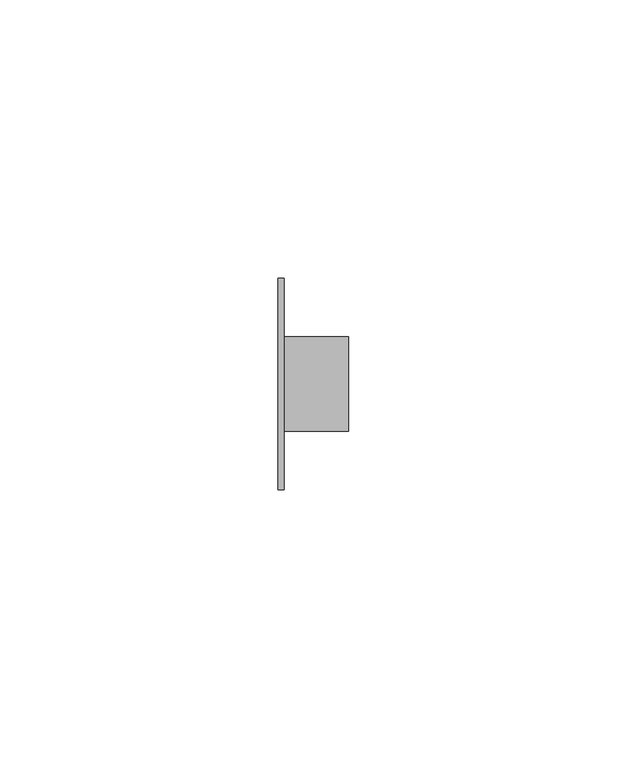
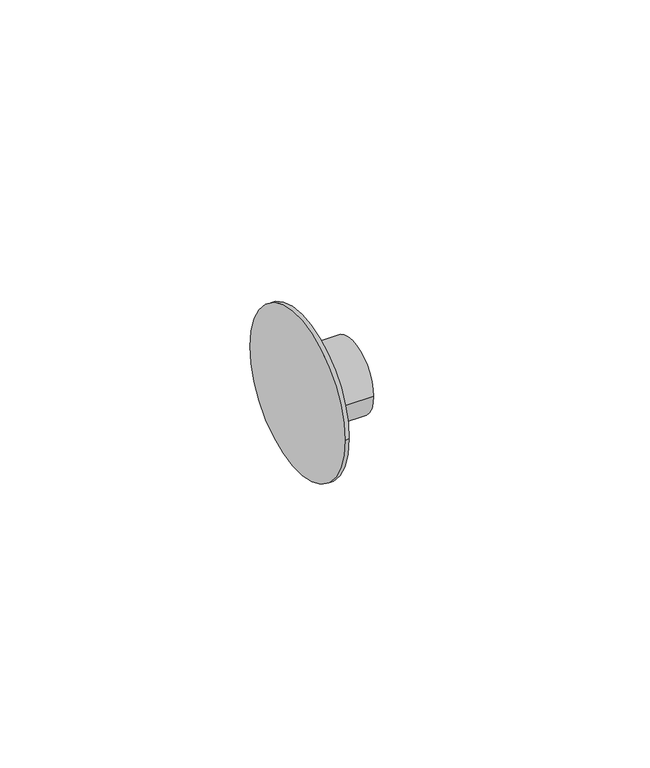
"""IFC4 building model written with IfcOpenShell, lengths in millimetres: pipe fitting geometry, Bucha de redução reta - Soldada - CU : Padrão."""

from ifc_helpers import new_model, si_unit, frame, origin, place, context, project, spatial, circle_curve, source, transform, mapped, element, save
from ifc_brep_helpers import plane_surface, cylinder_surface, advanced_brep


def pipe_fitting_d2aaae93(model_context):
    return source(origin(), model_context, "Body", "AdvancedBrep", [
        advanced_brep(
        [(0.0, -18.95, 0.0), (0.0, 18.95, 0.0), (1.0, -18.95, 0.0), (1.0, 18.95, 0.0), (1.0, -8.4937, 0.0), (1.0, 8.4937, 0.0), (12.6589, -8.4937, 0.0), (12.6589, 8.4937, 0.0)],
        [
            (0, 1, circle_curve(frame((0.0, 0.0, 0.0), z_axis=(-1.0, 0.0, 0.0), x_axis=(0.0, 1.0, 0.0)), 18.95)),
            (1, 0, circle_curve(frame((0.0, 0.0, 0.0), z_axis=(-1.0, 0.0, 0.0), x_axis=(0.0, 1.0, 0.0)), 18.95)),
            (2, 3, circle_curve(frame((1.0, 0.0, 0.0), z_axis=(1.0, 0.0, 0.0), x_axis=(0.0, 1.0, 0.0)), 18.95)),
            (3, 2, circle_curve(frame((1.0, 0.0, 0.0), z_axis=(1.0, 0.0, 0.0), x_axis=(0.0, 1.0, 0.0)), 18.95)),
            (4, 5, circle_curve(frame((1.0, 0.0, 0.0), z_axis=(-1.0, 0.0, 0.0), x_axis=(0.0, 1.0, 0.0)), 8.4937)),
            (5, 4, circle_curve(frame((1.0, 0.0, 0.0), z_axis=(-1.0, 0.0, 0.0), x_axis=(0.0, 1.0, 0.0)), 8.4937)),
            (0, 2),
            (3, 1),
            (6, 7, circle_curve(frame((12.6589, 0.0, 0.0), z_axis=(1.0, 0.0, 0.0), x_axis=(0.0, 1.0, 0.0)), 8.4937)),
            (7, 6, circle_curve(frame((12.6589, 0.0, 0.0), z_axis=(1.0, 0.0, 0.0), x_axis=(0.0, 1.0, 0.0)), 8.4937)),
            (7, 5),
            (4, 6),
        ],
        [
            plane_surface(frame((0.0, 0.0, 0.0), z_axis=(-1.0, 0.0, 0.0), x_axis=(0.0, 0.0, 1.0))),
            plane_surface(frame((1.0, 0.0, 0.0), z_axis=(1.0, 0.0, 0.0), x_axis=(0.0, 0.0, 1.0))),
            cylinder_surface(frame((0.0, 0.0, 0.0), z_axis=(-1.0, 0.0, 0.0), x_axis=(0.0, 1.0, 0.0)), 18.95),
            plane_surface(frame((12.6589, 0.0, 0.0), z_axis=(1.0, 0.0, 0.0), x_axis=(0.0, 0.0, 1.0))),
            cylinder_surface(frame((1.0, 0.0, 0.0), z_axis=(-1.0, 0.0, 0.0), x_axis=(0.0, 1.0, 0.0)), 8.4937),
        ],
        [
            (0, [[1, 2]]),
            (1, [[3, 4], [5, 6]]),
            (2, [[-1, 7, -4, 8]]),
            (2, [[-2, -8, -3, -7]]),
            (3, [[9, 10]]),
            (4, [[-10, 11, -5, 12]]),
            (4, [[-9, -12, -6, -11]]),
        ],
    ),
    ])


if __name__ == "__main__":
    model = new_model("IFC4")
    model_context = context("Model", 3, world=origin())
    ifc_project = project(units=[si_unit("LENGTHUNIT", "METRE", prefix="MILLI")], contexts=[model_context])
    site = spatial("IfcSite", under=ifc_project)
    building = spatial("IfcBuilding", under=site)
    placement = place(None, origin())
    pipe_fitting_shape = pipe_fitting_d2aaae93(model_context)
    element("IfcPipeFitting", 1, ObjectType="Bucha de redução reta - Soldada - CU : Padrão", at=placement, inside=building, context=model_context, shape_type="MappedRepresentation", body=[
        mapped(pipe_fitting_shape, transform((0.0, 0.0, 0.0), x_axis=(1.0, 0.0, 0.0), y_axis=(0.0, 1.0, 0.0), z_axis=(0.0, 0.0, 1.0))),
    ])
    save(model, "model.ifc")
